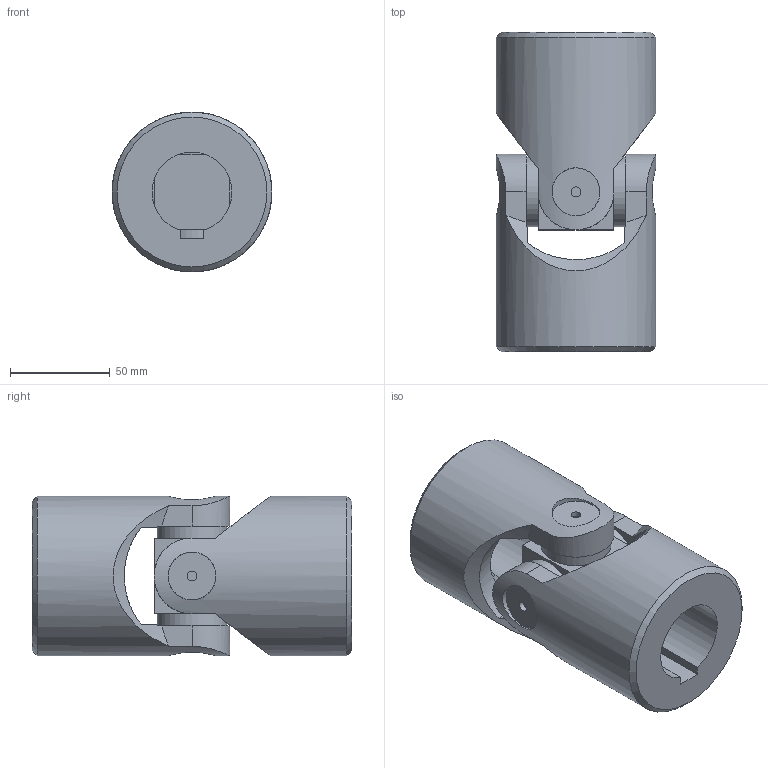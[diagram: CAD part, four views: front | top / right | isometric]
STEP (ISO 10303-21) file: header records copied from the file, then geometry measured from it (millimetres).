
FILE_DESCRIPTION(/* description */ (''),/* implementation_level */ '2;1');
FILE_NAME(/* name */ '\\SRV2016\Societa\Stefano\Disegni 3D\Dis. Clienti\0000Catalogo 3D\01Singoli G-GB\8G-1C_SG0S401C.stp',/* time_stamp */ '2021-11-10T13:41:09+01:00',/* author */ ('acquisti'),/* organization */ (''),/* preprocessor_version */ 'ST-DEVELOPER v15.6',/* originating_system */ 'Autodesk Inventor 2015',/* authorisation */ '');
FILE_SCHEMA (('AUTOMOTIVE_DESIGN { 1 0 10303 214 3 1 1 }'));
Length unit declared in the file: millimetre
Products named in the file (4): 8G SFE; 8G MOS; 8G MOC; Assieme1
Assembly tree (3 placements, depth 2):
  Assieme1
    8G SFE
    8G MOS
    8G MOC
Bounding box: 80 x 160 x 80 mm (x, y, z)
Volume: 525454.1 mm3; surface area: 80643.8 mm2
Topology: 3 solids, 3 shells, 77 faces, 187 edges, 126 vertices
Faces by surface type: plane 39, cylinder 23, cone 13, torus 2
Full cylindrical faces by diameter (mm): 5 x4, 24 x4, 35 x4, 40 x1, 47 x1, 80 x2
Entity records: 2713 total; most frequent: CARTESIAN_POINT 978, ORIENTED_EDGE 330, DIRECTION 329, EDGE_CURVE 165, AXIS2_PLACEMENT_3D 141, VERTEX_POINT 125, EDGE_LOOP 112, FACE_OUTER_BOUND 77
